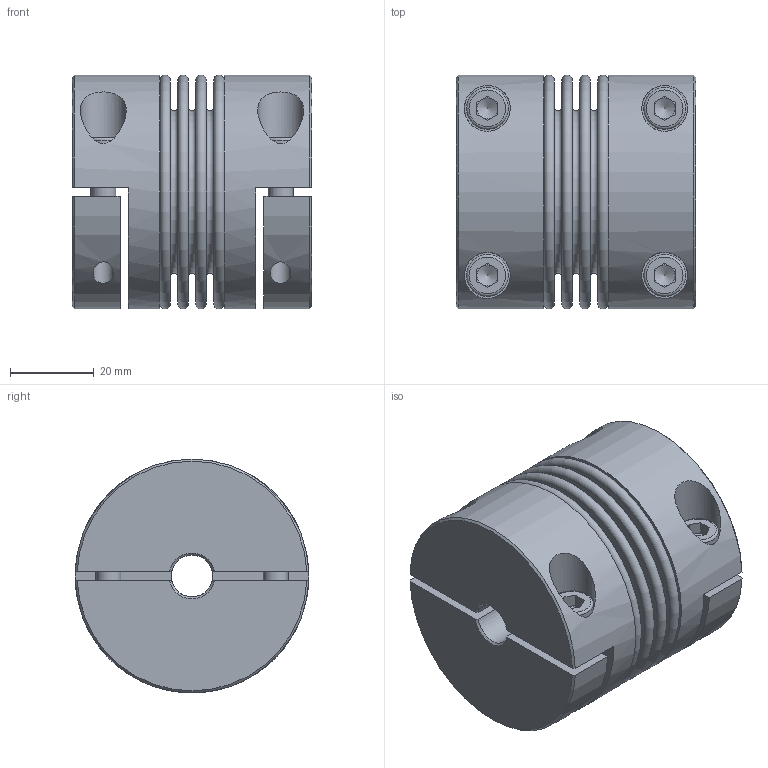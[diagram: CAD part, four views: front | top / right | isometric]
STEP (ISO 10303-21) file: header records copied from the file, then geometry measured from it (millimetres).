
FILE_DESCRIPTION( ( 'Unknown' ), '1' );
FILE_NAME( 'C:/Users/skarpstein/Desktop/KB4HC/KB4HC-30-58.stp', 'Unknown', ( 'Unknown' ), ( 'Unknown' ), 'PSStep 16.0.42', 'Unknown', ' ' );
FILE_SCHEMA( ( 'AUTOMOTIVE_DESIGN { 1 0 10303 214 1 1 1 1 }' ) );
Length unit declared in the file: millimetre
Products named in the file (5): Assem1; KN4HC-30; BK30_Standard_1; Socket Head Cap Screw_DIN_DIN 912 M6 x 20 --- 20N_3
Assembly tree (9 placements, depth 2):
  Assem1
    KN4HC-30  x2
    KN4HC-30  x2
    BK30_Standard_1
    Socket Head Cap Screw_DIN_DIN 912 M6 x 20 --- 20N_3  x4
Bounding box: 57.45 x 56 x 56 mm (x, y, z)
Volume: 94935.4 mm3; surface area: 54345.8 mm2
Topology: 9 solids, 9 shells, 172 faces, 363 edges, 231 vertices
Faces by surface type: plane 100, cylinder 32, torus 24, cone 16
Full cylindrical faces by diameter (mm): 4.917 x4, 6 x4, 6.4 x4, 10 x6, 11 x4, 46.5 x2, 47.3 x2, 56 x2
Entity records: 3082 total; most frequent: CARTESIAN_POINT 631, DIRECTION 374, ORIENTED_EDGE 250, AXIS2_PLACEMENT_3D 167, EDGE_LOOP 148, EDGE_CURVE 125, FACE_OUTER_BOUND 116, VERTEX_POINT 110
